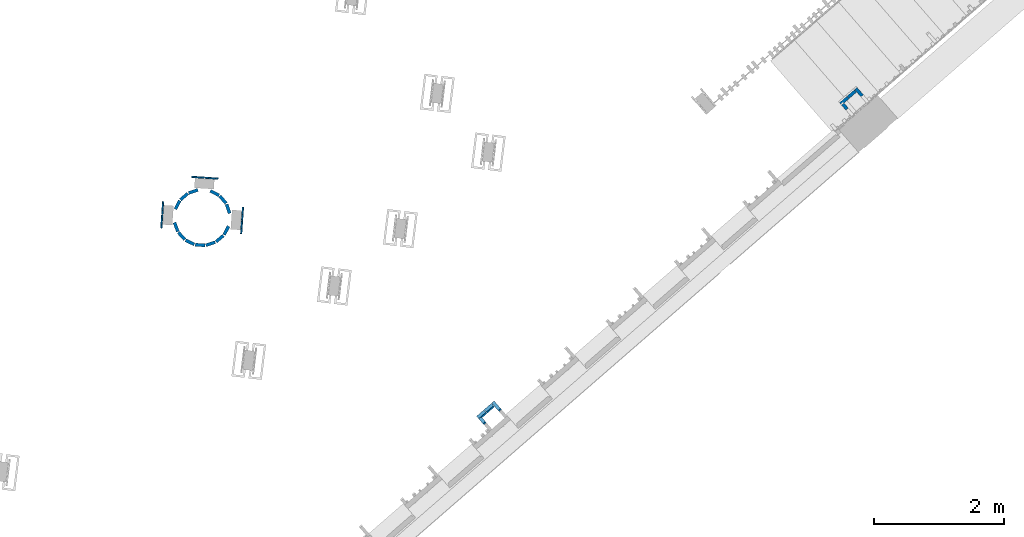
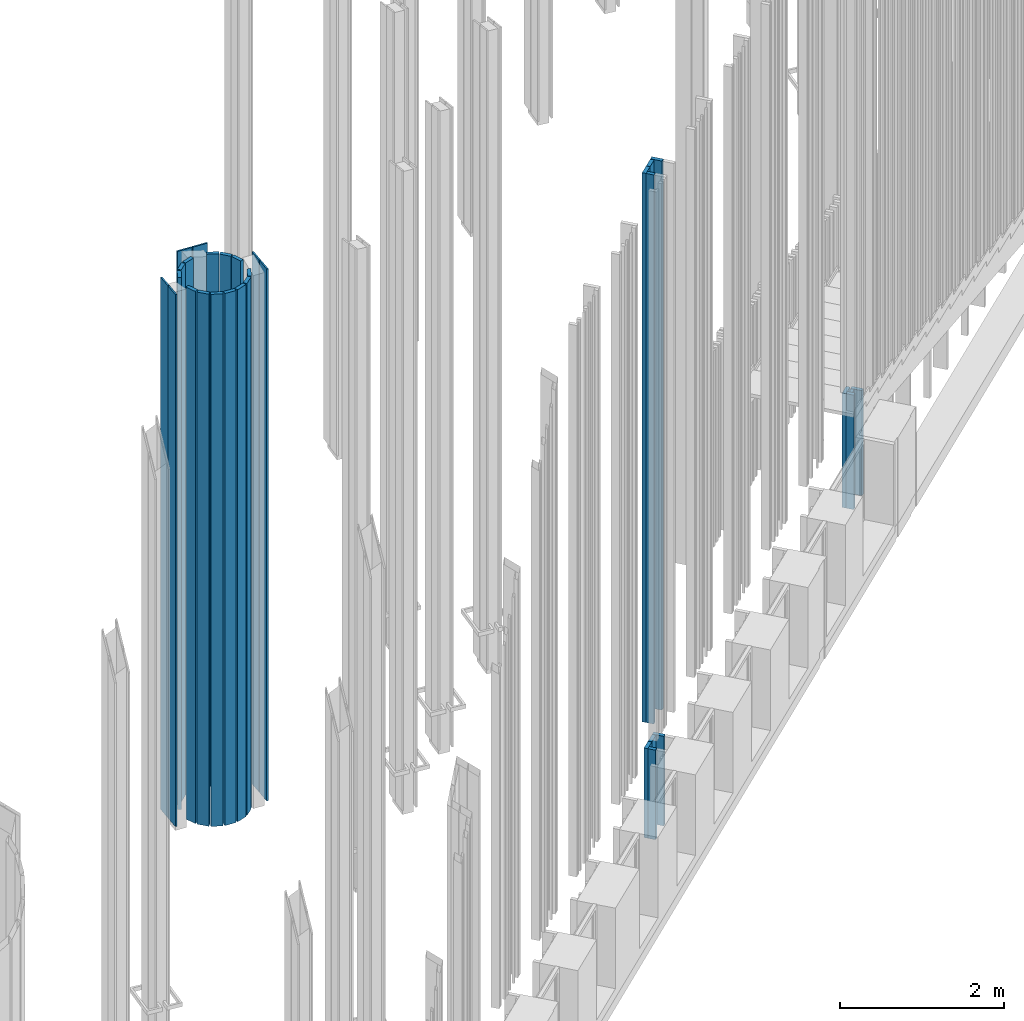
# One storey, part 24 of 390: 31 walls.
"""IFC2X3 building model written with IfcOpenShell, lengths in millimetres."""

from ifc_helpers import new_model, entity, si_unit, converted_unit, derived_unit, money_unit, direction, frame, origin_with_axes, origin_2d_with_axis, place, context, subcontext, project, spatial, rectangle, extrude, material, type_object, element, save


model = new_model("IFC2X3")

# Units and contexts
model_context = context("Model", 3, precision=1e-05, world=origin_with_axes(), true_north=direction((0.0, 1.0)))
body_context = subcontext(model_context, "Body", "Model", "MODEL_VIEW")
ifc_project = project(units=[si_unit("LENGTHUNIT", "METRE", prefix="MILLI"), si_unit("AREAUNIT", "SQUARE_METRE"), si_unit("VOLUMEUNIT", "CUBIC_METRE"), converted_unit("PLANEANGLEUNIT", "DEGREE", entity("IfcPlaneAngleMeasure", 0.0174532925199), si_unit("PLANEANGLEUNIT", "RADIAN"), dimensions=[0, 0, 0, 0, 0, 0, 0]), si_unit("SOLIDANGLEUNIT", "STERADIAN"), money_unit("EUR"), converted_unit("TIMEUNIT", "Year", entity("IfcTimeMeasure", 31556926.0), si_unit("TIMEUNIT", "SECOND"), dimensions=[0, 0, 1, 0, 0, 0, 0]), si_unit("MASSUNIT", "GRAM", prefix="KILO"), si_unit("THERMODYNAMICTEMPERATUREUNIT", "DEGREE_CELSIUS"), si_unit("LUMINOUSINTENSITYUNIT", "LUMEN"), si_unit("ENERGYUNIT", "JOULE", prefix="MEGA"), derived_unit("THERMALCONDUCTANCEUNIT", [(si_unit("POWERUNIT", "WATT"), 1), (si_unit("LENGTHUNIT", "METRE"), -1), (si_unit("THERMODYNAMICTEMPERATUREUNIT", "KELVIN"), -1)]), derived_unit("SPECIFICHEATCAPACITYUNIT", [(si_unit("ENERGYUNIT", "JOULE"), 1), (si_unit("MASSUNIT", "GRAM", prefix="KILO"), -1), (si_unit("THERMODYNAMICTEMPERATUREUNIT", "KELVIN"), -1)]), derived_unit("MASSDENSITYUNIT", [(si_unit("MASSUNIT", "GRAM", prefix="KILO"), 1), (si_unit("VOLUMEUNIT", "CUBIC_METRE"), -1)])], contexts=[model_context])

# Site, building, storey
site_placement = place(None, origin_with_axes())
site = spatial("IfcSite", under=ifc_project, at=site_placement, Name="Site", CompositionType="ELEMENT")
building_placement = place(site_placement, origin_with_axes())
building = spatial("IfcBuilding", under=site, at=building_placement, Name="Building", CompositionType="ELEMENT")
storey_placement = place(building_placement, origin_with_axes())
storey = spatial("IfcBuildingStorey", under=building, at=storey_placement, Name="1 korrus", CompositionType="ELEMENT", Elevation=0.0)

# Walls
ifc_material_1 = material(Name="Site specified")
wall_type = type_object("IfcWallType", Name="Puitfassaadi ribisik", PredefinedType="NOTDEFINED")
for number, where, z_axis, x_axis, name in (
    (1, (153945.244905, 104196.85385, 1712.81354246), (0.0, 0.0, 1.0), (-0.656059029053, 0.754709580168, 0.0), "Site specified"),
    (2, (154174.272348, 104329.693719, 1712.81354246), (0.0, 0.0, 1.0), (0.754709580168, 0.656059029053, 0.0), "Site specified"),
):
    element("IfcWall", number, at=place(storey_placement, frame(where, z_axis=z_axis, x_axis=x_axis)), inside=storey, type_object=wall_type, material=ifc_material_1, Name=name, context=body_context, shape_type="SweptSolid", body=[
        extrude(rectangle(XDim=50.0, YDim=150.0, at=origin_2d_with_axis()), origin_with_axes(), (0.0, 0.0, 1.0), 8152.18645244),
    ])
wall_1_placement = place(storey_placement, frame((159776.475313, 109169.135888, 0.0), z_axis=(0.0, 0.0, 1.0), x_axis=(0.754709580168, 0.656059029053, 0.0)))
element("IfcWall", 3, at=wall_1_placement, inside=storey, type_object=wall_type, material=ifc_material_1, Name="Site specified", context=body_context, shape_type="SweptSolid", body=[
    extrude(rectangle(XDim=50.0, YDim=150.0, at=origin_2d_with_axis()), origin_with_axes(), (0.0, 0.0, 1.0), 1560.0),
])
wall_2_placement = place(storey_placement, frame((159547.447871, 109036.29602, 0.0), z_axis=(0.0, 0.0, 1.0), x_axis=(-0.656059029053, 0.754709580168, 0.0)))
element("IfcWall", 4, at=wall_2_placement, inside=storey, type_object=wall_type, material=ifc_material_1, Name="Site specified", context=body_context, shape_type="SweptSolid", body=[
    extrude(rectangle(XDim=50.0, YDim=150.0, at=origin_2d_with_axis()), origin_with_axes(), (0.0, 0.0, 1.0), 1700.0),
])
wall_3_placement = place(storey_placement, frame((159558.916818, 108946.889802, 0.0), z_axis=(0.0, 0.0, 1.0), x_axis=(0.754709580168, 0.656059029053, 0.0)))
element("IfcWall", 5, at=wall_3_placement, inside=storey, type_object=wall_type, material=ifc_material_1, Name="Site specified", context=body_context, shape_type="SweptSolid", body=[
    extrude(rectangle(XDim=50.0, YDim=100.000069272, at=origin_2d_with_axis()), origin_with_axes(), (0.0, 0.0, 1.0), 1700.0),
])
wall_4_placement = place(storey_placement, frame((159664.427856, 109137.985169, 0.0), z_axis=(0.0, 0.0, 1.0), x_axis=(-0.656059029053, 0.754709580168, 0.0)))
element("IfcWall", 6, at=wall_4_placement, inside=storey, type_object=wall_type, material=ifc_material_1, Name="Site specified", context=body_context, shape_type="SweptSolid", body=[
    extrude(rectangle(XDim=50.0, YDim=150.0, at=origin_2d_with_axis()), origin_with_axes(), (0.0, 0.0, 1.0), 1560.0),
])
wall_5_placement = place(storey_placement, frame((154062.22489, 104298.543, 1712.81354246), z_axis=(0.0, 0.0, 1.0), x_axis=(-0.656059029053, 0.754709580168, 0.0)))
element("IfcWall", 7, at=wall_5_placement, inside=storey, type_object=wall_type, material=ifc_material_1, Name="Site specified", context=body_context, shape_type="SweptSolid", body=[
    extrude(rectangle(XDim=50.0, YDim=150.0, at=origin_2d_with_axis()), origin_with_axes(), (0.0, 0.0, 1.0), 8152.18645244),
])
wall_6_placement = place(storey_placement, frame((153956.713852, 104107.447633, 1712.81354246), z_axis=(0.0, 0.0, 1.0), x_axis=(0.754709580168, 0.656059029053, 0.0)))
element("IfcWall", 8, at=wall_6_placement, inside=storey, type_object=wall_type, material=ifc_material_1, Name="Site specified", context=body_context, shape_type="SweptSolid", body=[
    extrude(rectangle(XDim=50.0, YDim=100.000069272, at=origin_2d_with_axis()), origin_with_axes(), (0.0, 0.0, 1.0), 8152.18645244),
])
ifc_material_2 = material(Name="GENEERILINE - VÄLINE VOODER")
for number, where, z_axis, x_axis in (
    (9, (149257.462682, 107429.451468, 100.0), (0.0, 0.0, 1.0), (0.887623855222, -0.460569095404, 0.0)),
    (10, (149957.508161, 107510.154375, 100.0), (0.0, 0.0, 1.0), (-0.759541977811, -0.650458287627, 0.0)),
    (11, (150037.560754, 107369.099723, 100.0), (0.0, 0.0, 1.0), (-0.947901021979, -0.318564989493, 0.0)),
    (12, (149319.623438, 106948.490418, 100.0), (0.0, 0.0, 1.0), (0.741363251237, 0.671103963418, 0.0)),
    (13, (149358.258048, 107556.514943, 100.0), (0.0, 0.0, 1.0), (0.650458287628, -0.759541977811, 0.0)),
    (14, (149830.444686, 107610.949741, 100.0), (0.0, 0.0, 1.0), (-0.460569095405, -0.887623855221, 0.0)),
):
    element("IfcWall", number, at=place(storey_placement, frame(where, z_axis=z_axis, x_axis=x_axis)), inside=storey, type_object=wall_type, material=ifc_material_2, Name="GENEERILINE - VÄLINE VOODER", context=body_context, shape_type="SweptSolid", body=[
        extrude(rectangle(XDim=50.0, YDim=150.0, at=origin_2d_with_axis()), origin_with_axes(), (0.0, 0.0, 1.0), 7900.0),
    ])
wall_7_placement = place(storey_placement, frame((149572.928573, 107855.533486, 100.0), z_axis=(0.0, 0.0, 1.0), x_axis=(0.0697564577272, 0.99756405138, 0.0)))
element("IfcWall", 15, at=wall_7_placement, inside=storey, type_object=wall_type, material=ifc_material_2, Name="GENEERILINE - VÄLINE VOODER", context=body_context, shape_type="SweptSolid", body=[
    extrude(rectangle(XDim=22.0, YDim=200.0, at=origin_2d_with_axis()), frame((0.0, 0.0, 0.0), z_axis=(0.0, 0.0, -1.0), x_axis=(-1.0, 0.0, 0.0)), (0.0, 0.0, -1.0), 7900.0),
])
for number, where, z_axis, x_axis in (
    (16, (149449.411291, 106851.228166, 100.0), (0.0, 0.0, 1.0), (0.435980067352, 0.899956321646, 0.0)),
    (17, (150009.95555, 107034.184194, 100.0), (0.0, 0.0, 1.0), (-0.882947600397, 0.469471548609, 0.0)),
    (18, (149907.887559, 106908.140718, 100.0), (0.0, 0.0, 1.0), (-0.642787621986, 0.766044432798, 0.0)),
    (19, (149235.721317, 107087.289793, 100.0), (0.0, 0.0, 1.0), (0.93878000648, 0.344517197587, 0.0)),
    (20, (149766.035049, 106829.510585, 100.0), (0.0, 0.0, 1.0), (-0.309017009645, 0.951056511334, 0.0)),
):
    element("IfcWall", number, at=place(storey_placement, frame(where, z_axis=z_axis, x_axis=x_axis)), inside=storey, type_object=wall_type, material=ifc_material_2, Name="GENEERILINE - VÄLINE VOODER", context=body_context, shape_type="SweptSolid", body=[
        extrude(rectangle(XDim=50.0, YDim=150.0, at=origin_2d_with_axis()), origin_with_axes(), (0.0, 0.0, 1.0), 7900.0),
    ])
wall_8_placement = place(storey_placement, frame((150260.476268, 107295.207664, 100.0), z_axis=(0.0, 0.0, 1.0), x_axis=(0.99756405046, -0.0697564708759, 0.0)))
element("IfcWall", 21, at=wall_8_placement, inside=storey, type_object=wall_type, material=ifc_material_2, Name="GENEERILINE - VÄLINE VOODER", context=body_context, shape_type="SweptSolid", body=[
    extrude(rectangle(XDim=22.0, YDim=200.0, at=origin_2d_with_axis()), frame((0.0, 0.0, 0.0), z_axis=(0.0, 0.0, -1.0), x_axis=(-1.0, 0.0, 0.0)), (0.0, 0.0, -1.0), 7900.0),
])
for number, where, z_axis, x_axis, name in (
    (22, (154077.314248, 104281.184679, 0.0), (0.0, 0.0, 1.0), (-0.656059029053, 0.754709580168, 0.0), "Site specified"),
    (23, (153960.334263, 104179.49553, 0.0), (0.0, 0.0, 1.0), (-0.656059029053, 0.754709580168, 0.0), "Site specified"),
    (24, (154189.361705, 104312.335398, 0.0), (0.0, 0.0, 1.0), (0.754709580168, 0.656059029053, 0.0), "Site specified"),
):
    element("IfcWall", number, at=place(storey_placement, frame(where, z_axis=z_axis, x_axis=x_axis)), inside=storey, type_object=wall_type, material=ifc_material_1, Name=name, context=body_context, shape_type="SweptSolid", body=[
        extrude(rectangle(XDim=50.0, YDim=150.0, at=origin_2d_with_axis()), origin_with_axes(), (0.0, 0.0, 1.0), 1329.9999949),
    ])
wall_9_placement = place(storey_placement, frame((153971.803209, 104090.089312, 0.0), z_axis=(0.0, 0.0, 1.0), x_axis=(0.754709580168, 0.656059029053, 0.0)))
element("IfcWall", 25, at=wall_9_placement, inside=storey, type_object=wall_type, material=ifc_material_1, Name="Site specified", context=body_context, shape_type="SweptSolid", body=[
    extrude(rectangle(XDim=50.0, YDim=100.000069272, at=origin_2d_with_axis()), origin_with_axes(), (0.0, 0.0, 1.0), 1329.9999949),
])
for number, where, z_axis, x_axis in (
    (26, (149782.417023, 107840.88463, 100.0), (0.0, 0.0, 1.0), (0.0697564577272, 0.99756405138, 0.0)),
    (27, (149027.568484, 107381.420956, 100.0), (0.0, 0.0, 1.0), (-0.997564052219, 0.0697564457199, 0.0)),
):
    element("IfcWall", number, at=place(storey_placement, frame(where, z_axis=z_axis, x_axis=x_axis)), inside=storey, type_object=wall_type, material=ifc_material_2, Name="GENEERILINE - VÄLINE VOODER", context=body_context, shape_type="SweptSolid", body=[
        extrude(rectangle(XDim=22.0, YDim=200.0, at=origin_2d_with_axis()), frame((0.0, 0.0, 0.0), z_axis=(0.0, 0.0, -1.0), x_axis=(-1.0, 0.0, 0.0)), (0.0, 0.0, -1.0), 7900.0),
    ])
for number, where, z_axis, x_axis in (
    (28, (149605.056326, 106809.744881, 100.0), (0.0, 0.0, 1.0), (0.0697564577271, 0.99756405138, 0.0)),
    (29, (149499.3127, 107636.567537, 100.0), (0.0, 0.0, 1.0), (0.318564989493, -0.947901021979, 0.0)),
):
    element("IfcWall", number, at=place(storey_placement, frame(where, z_axis=z_axis, x_axis=x_axis)), inside=storey, type_object=wall_type, material=ifc_material_2, Name="GENEERILINE - VÄLINE VOODER", context=body_context, shape_type="SweptSolid", body=[
        extrude(rectangle(XDim=50.0, YDim=150.0, at=origin_2d_with_axis()), origin_with_axes(), (0.0, 0.0, 1.0), 7900.0),
    ])
for number, where, z_axis, x_axis in (
    (30, (149012.91963, 107171.932505, 100.0), (0.0, 0.0, 1.0), (-0.997564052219, 0.0697564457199, 0.0)),
    (31, (150245.827409, 107085.719214, 100.0), (0.0, 0.0, 1.0), (0.99756405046, -0.0697564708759, 0.0)),
):
    element("IfcWall", number, at=place(storey_placement, frame(where, z_axis=z_axis, x_axis=x_axis)), inside=storey, type_object=wall_type, material=ifc_material_2, Name="GENEERILINE - VÄLINE VOODER", context=body_context, shape_type="SweptSolid", body=[
        extrude(rectangle(XDim=22.0, YDim=200.0, at=origin_2d_with_axis()), frame((0.0, 0.0, 0.0), z_axis=(0.0, 0.0, -1.0), x_axis=(-1.0, 0.0, 0.0)), (0.0, 0.0, -1.0), 7900.0),
    ])

save(model, "model.ifc")
